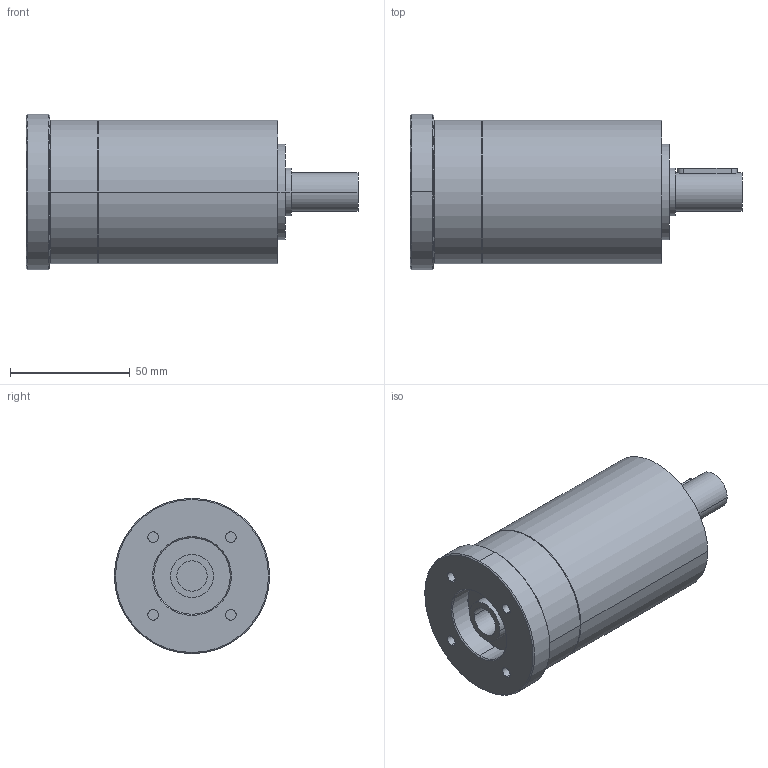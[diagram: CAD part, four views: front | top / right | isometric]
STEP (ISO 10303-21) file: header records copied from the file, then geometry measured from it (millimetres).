
FILE_DESCRIPTION(('CoCreate Modeling STEP Export'),'2;1');
FILE_NAME('GPR75_ig-9-12-16-20-24-30-36_16_B14_12.7_P12.stp','2014-08-25T16:02:21',(''),(''),'CoCreate Modeling STEP processor for AP214 (Solid Model)','CoCreate Modeling 16.00C 25-Feb-2009 (C) Parametric Technology GmbH','');
FILE_SCHEMA(('AUTOMOTIVE_DESIGN { 1 0 10303 214 1 1 1 1 }'));
Length unit declared in the file: millimetre
Products named in the file (2): GPR75_ig-9-12-16-20-24-30-36_16_B14_12.7_P12
Assembly tree (1 placements, depth 2):
  GPR75_ig-9-12-16-20-24-30-36_16_B14_12.7_P12
    GPR75_ig-9-12-16-20-24-30-36_16_B14_12.7_P12
Bounding box: 138.9 x 65 x 65 mm (x, y, z)
Volume: 301660.5 mm3; surface area: 32690.8 mm2
Topology: 1 solids, 1 shells, 73 faces, 187 edges, 131 vertices
Faces by surface type: cylinder 38, plane 21, cone 14
Entity records: 1861 total; most frequent: ORIENTED_EDGE 370, CARTESIAN_POINT 343, DIRECTION 238, EDGE_CURVE 185, VERTEX_POINT 131, AXIS2_PLACEMENT_3D 90, EDGE_LOOP 90, FACE_OUTER_BOUND 73
